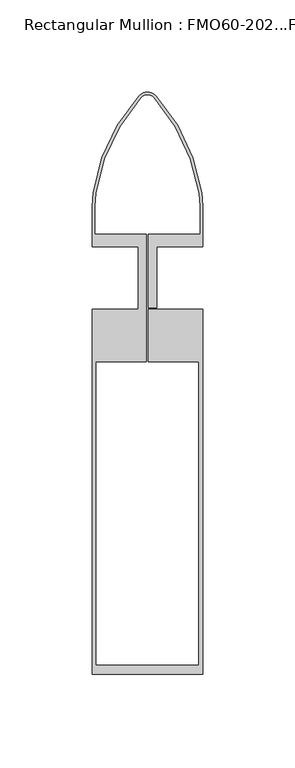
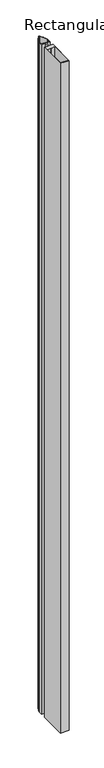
"""IFC4 building model written with IfcOpenShell, lengths in millimetres: member geometry, Rectangular Mullion : FMO60-202...FM60-80."""

from ifc_helpers import new_model, si_unit, frame, origin, place, context, project, spatial, polyline, circle_curve, source, transform, mapped, element, save
from ifc_brep_helpers import plane_surface, cylinder_surface, revolved_surface, advanced_brep


def rectangular_mullion_fmo60_202_fm60_80_f4d952df(model_context):
    return source(origin(), model_context, "Body", "AdvancedBrep", [
        advanced_brep(
        [(28.0754927, 46.0342032, 0.0), (28.6, 38.9133183, 0.0), (28.6000412, 23.8476589, 0.0), (0.5, 23.8476589, 0.0), (0.5, -16.2, 0.0), (5.0, -16.2, 0.0), (5.0, 17.0, 0.0), (30.0, 17.0, 0.0), (30.0, 38.9133183, 0.0), (29.4612692, 46.2333488, 0.0), (4.7233463, 98.6502996, 0.0), (0.0, 100.9502996, 0.0), (-4.7233463, 98.6502996, 0.0), (-29.4612692, 46.2333488, 0.0), (-30.0, 38.9133183, 0.0), (-30.0, 17.0, 0.0), (-5.0, 17.0, 0.0), (-5.0, -17.0, 0.0), (-30.0, -17.0, 0.0), (-30.0, -215.009342, 0.0), (30.0, -215.009342, 0.0), (30.0, -17.0, 0.0), (0.5, -17.0, 0.0), (0.5, -45.5034642, 0.0), (28.0, -45.5034642, 0.0), (28.0, -210.007942, 0.0), (-28.0, -210.007942, 0.0), (-28.0, -45.5034642, 0.0), (-0.5, -45.5034642, 0.0), (-0.5, 23.8476589, 0.0), (-28.6, 23.8476589, 0.0), (-28.6, 38.9133183, 0.0), (-28.0754927, 46.0342032, 0.0), (-3.6212321, 97.7869663, 0.0), (0.0, 99.5502996, 0.0), (3.6212321, 97.7869663, 0.0), (28.0763537, 46.0283879, -5000.0), (3.6212321, 97.7869663, -5000.0), (0.0, 99.5502996, -5000.0), (-3.6212321, 97.7869663, -5000.0), (-28.0763537, 46.0283879, -5000.0), (-28.6, 38.9133183, -5000.0), (-28.6, 23.8476589, -5000.0), (-0.5, 23.8476589, -5000.0), (-0.5, -45.5034642, -5000.0), (-28.0, -45.5034642, -5000.0), (-28.0, -210.007942, -5000.0), (28.0, -210.007942, -5000.0), (28.0, -45.5034642, -5000.0), (0.5, -45.5034642, -5000.0), (0.5, -17.0, -5000.0), (30.0, -17.0, -5000.0), (30.0, -215.009342, -5000.0), (-30.0, -215.009342, -5000.0), (-30.0, -17.0, -5000.0), (-5.0, -17.0, -5000.0), (-5.0, 17.0, -5000.0), (-30.0, 17.0, -5000.0), (-30.0, 38.9133183, -5000.0), (-29.4612692, 46.2333488, -5000.0), (-4.7233463, 98.6502996, -5000.0), (0.0, 100.9502996, -5000.0), (4.7233463, 98.6502996, -5000.0), (29.4612692, 46.2333488, -5000.0), (30.0, 38.9133183, -5000.0), (30.0, 17.0, -5000.0), (5.0, 17.0, -5000.0), (5.0, -16.2, -5000.0), (0.5, -16.2, -5000.0), (0.5, 23.8476589, -5000.0), (28.6000412, 23.8476589, -5000.0), (28.6000412, 38.9133183, -5000.0)],
        [
            (0, 1, circle_curve(frame((-20.0, 38.9133183, 0.0), z_axis=(0.0, 0.0, -1.0), x_axis=(1.0, 0.0, 0.0)), 48.6)),
            (1, 2),
            (2, 3),
            (3, 4),
            (4, 5),
            (5, 6),
            (6, 7),
            (7, 8),
            (8, 9, circle_curve(frame((-20.0, 38.9133183, 0.0), z_axis=(0.0, 0.0, 1.0), x_axis=(0.9892253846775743, 0.14640060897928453, 0.0)), 50.0)),
            (9, 10, circle_curve(frame((-69.4612692, 31.5932879, 0.0), z_axis=(0.0, 0.0, 1.0), x_axis=(0.7418461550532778, 0.6705701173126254, 0.0)), 100.0)),
            (10, 11, circle_curve(frame((0.0, 94.9502996, 0.0), z_axis=(0.0, 0.0, 1.0), x_axis=(-4.1031992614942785e-11, 1.0, 0.0)), 6.0)),
            (11, 12, circle_curve(frame((0.0, 94.9502996, 0.0), z_axis=(0.0, 0.0, 1.0), x_axis=(-0.7872243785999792, 0.6166666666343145, 0.0)), 6.0)),
            (12, 13, circle_curve(frame((69.4612692, 31.5932879, 0.0), z_axis=(0.0, 0.0, 1.0), x_axis=(-0.989225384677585, 0.14640060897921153, 0.0)), 100.0)),
            (13, 14, circle_curve(frame((20.0, 38.9133183, 0.0), z_axis=(0.0, 0.0, 1.0), x_axis=(-1.0, 0.0, 0.0)), 50.0)),
            (14, 15),
            (15, 16),
            (16, 17),
            (17, 18),
            (18, 19),
            (19, 20),
            (20, 21),
            (21, 22),
            (22, 23),
            (23, 24),
            (24, 25),
            (25, 26),
            (26, 27),
            (27, 28),
            (28, 29),
            (29, 30),
            (30, 31),
            (31, 32, circle_curve(frame((20.0, 38.9133183, 0.0), z_axis=(0.0, 0.0, -1.0), x_axis=(-0.989225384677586, 0.14640060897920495, 0.0)), 48.6)),
            (32, 33, circle_curve(frame((69.5008187, 31.5813159, 0.0), z_axis=(0.0, 0.0, -1.0), x_axis=(-0.7412956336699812, 0.6711786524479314, 0.0)), 98.6408763)),
            (33, 34, circle_curve(frame((0.0, 94.9502996, 0.0), z_axis=(0.0, 0.0, -1.0), x_axis=(-5.376158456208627e-11, 1.0, 0.0)), 4.6)),
            (34, 35, circle_curve(frame((0.0, 94.9502996, 0.0), z_axis=(0.0, 0.0, -1.0), x_axis=(0.7872243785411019, 0.6166666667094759, 0.0)), 4.6)),
            (35, 0, circle_curve(frame((-69.5008187, 31.5813159, 0.0), z_axis=(0.0, 0.0, -1.0), x_axis=(0.9892163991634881, 0.14646131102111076, 0.0)), 98.6408763)),
            (36, 37, circle_curve(frame((-69.5008187, 31.5813159, -5000.0), z_axis=(0.0, 0.0, 1.0), x_axis=(0.9892163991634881, 0.14646131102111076, 0.0)), 98.6408763)),
            (37, 38, circle_curve(frame((0.0, 94.9502996, -5000.0), z_axis=(0.0, 0.0, 1.0), x_axis=(0.7872243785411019, 0.6166666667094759, 0.0)), 4.6)),
            (38, 39, circle_curve(frame((0.0, 94.9502996, -5000.0), z_axis=(0.0, 0.0, 1.0), x_axis=(-5.376158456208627e-11, 1.0, 0.0)), 4.6)),
            (39, 40, circle_curve(frame((69.5008187, 31.5813159, -5000.0), z_axis=(0.0, 0.0, 1.0), x_axis=(-0.7412956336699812, 0.6711786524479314, 0.0)), 98.6408763)),
            (40, 41, circle_curve(frame((20.0, 38.9133183, -5000.0), z_axis=(0.0, 0.0, 1.0), x_axis=(-0.989225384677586, 0.14640060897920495, 0.0)), 48.6)),
            (41, 42),
            (42, 43),
            (43, 44),
            (44, 45),
            (45, 46),
            (46, 47),
            (47, 48),
            (48, 49),
            (49, 50),
            (50, 51),
            (51, 52),
            (52, 53),
            (53, 54),
            (54, 55),
            (55, 56),
            (56, 57),
            (57, 58),
            (58, 59, circle_curve(frame((20.0, 38.9133183, -5000.0), z_axis=(0.0, 0.0, -1.0), x_axis=(-1.0, 0.0, 0.0)), 50.0)),
            (59, 60, circle_curve(frame((69.4612692, 31.5932879, -5000.0), z_axis=(0.0, 0.0, -1.0), x_axis=(-0.989225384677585, 0.14640060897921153, 0.0)), 100.0)),
            (60, 61, circle_curve(frame((0.0, 94.9502996, -5000.0), z_axis=(0.0, 0.0, -1.0), x_axis=(-0.7872243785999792, 0.6166666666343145, 0.0)), 6.0)),
            (61, 62, circle_curve(frame((0.0, 94.9502996, -5000.0), z_axis=(0.0, 0.0, -1.0), x_axis=(-4.1031992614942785e-11, 1.0, 0.0)), 6.0)),
            (62, 63, circle_curve(frame((-69.4612692, 31.5932879, -5000.0), z_axis=(0.0, 0.0, -1.0), x_axis=(0.7418461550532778, 0.6705701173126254, 0.0)), 100.0)),
            (63, 64, circle_curve(frame((-20.0, 38.9133183, -5000.0), z_axis=(0.0, 0.0, -1.0), x_axis=(0.9892253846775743, 0.14640060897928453, 0.0)), 50.0)),
            (64, 65),
            (65, 66),
            (66, 67),
            (67, 68),
            (68, 69),
            (69, 70),
            (70, 71),
            (71, 36, circle_curve(frame((-20.0, 38.9133183, -5000.0), z_axis=(0.0, 0.0, 1.0), x_axis=(1.0, 0.0, 0.0)), 48.6)),
            (0, 36),
            (71, 1),
            (70, 2),
            (69, 3),
            (68, 4),
            (67, 5),
            (66, 6),
            (65, 7),
            (64, 8),
            (63, 9),
            (62, 10),
            (61, 11),
            (60, 12),
            (59, 13),
            (58, 14),
            (57, 15),
            (56, 16),
            (55, 17),
            (54, 18),
            (53, 19),
            (52, 20),
            (51, 21),
            (50, 22),
            (49, 23),
            (48, 24),
            (47, 25),
            (46, 26),
            (45, 27),
            (44, 28),
            (43, 29),
            (42, 30),
            (41, 31),
            (40, 32),
            (39, 33),
            (38, 34),
            (37, 35),
        ],
        [
            plane_surface(frame((0.0, -217.0921859, 0.0), z_axis=(0.0, 0.0, 1.0), x_axis=(-1.0, 0.0, 0.0))),
            plane_surface(frame((0.0, -217.0921859, -5000.0), z_axis=(0.0, 0.0, -1.0), x_axis=(-1.0, 0.0, 0.0))),
            revolved_surface(polyline([(28.6, 38.9133183, -5000.0), (28.6, 38.9133183, 0.0)]), (-20.0, 38.9133183, 0.0), (0.0, 0.0, -1.0)),
            plane_surface(frame((28.6000412, 38.9133183, 0.0), z_axis=(-1.0, 0.0, 0.0), x_axis=(0.0, 0.0, -1.0))),
            plane_surface(frame((28.6000412, 23.8476589, 0.0), z_axis=(0.0, 1.0, 0.0), x_axis=(0.0, 0.0, -1.0))),
            plane_surface(frame((0.5, 23.8476589, 0.0), z_axis=(-1.0, 0.0, 0.0), x_axis=(0.0, 0.0, -1.0))),
            plane_surface(frame((0.5, -16.2, 0.0), z_axis=(0.0, -1.0, 0.0), x_axis=(0.0, 0.0, -1.0))),
            plane_surface(frame((5.0, -16.2, 0.0), z_axis=(1.0, 0.0, 0.0), x_axis=(0.0, 0.0, -1.0))),
            plane_surface(frame((5.0, 17.0, 0.0), z_axis=(0.0, -1.0, 0.0), x_axis=(0.0, 0.0, -1.0))),
            plane_surface(frame((30.0, 17.0, 0.0), z_axis=(1.0, 0.0, 0.0), x_axis=(0.0, 0.0, -1.0))),
            cylinder_surface(frame((-20.0, 38.9133183, 0.0), z_axis=(0.0, 0.0, 1.0000000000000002), x_axis=(0.9892253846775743, 0.14640060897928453, 0.0)), 50.0),
            cylinder_surface(frame((-69.4612692, 31.5932879, 0.0), z_axis=(0.0, 0.0, 1.0), x_axis=(0.7418461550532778, 0.6705701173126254, 0.0)), 100.0),
            cylinder_surface(frame((0.0, 94.9502996, 0.0), z_axis=(0.0, 0.0, 1.0), x_axis=(-4.1031992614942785e-11, 1.0, 0.0)), 6.0),
            cylinder_surface(frame((0.0, 94.9502996, 0.0), z_axis=(0.0, 0.0, 1.0), x_axis=(-0.7872243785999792, 0.6166666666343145, 0.0)), 6.0),
            cylinder_surface(frame((69.4612692, 31.5932879, 0.0), z_axis=(0.0, 0.0, 1.0), x_axis=(-0.989225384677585, 0.14640060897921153, 0.0)), 100.0),
            cylinder_surface(frame((20.0, 38.9133183, 0.0), z_axis=(0.0, 0.0, 1.0), x_axis=(-1.0, 0.0, 0.0)), 50.0),
            plane_surface(frame((-30.0, 38.9133183, 0.0), z_axis=(-1.0, 0.0, 0.0), x_axis=(0.0, 0.0, -1.0))),
            plane_surface(frame((-30.0, 17.0, 0.0), z_axis=(0.0, -1.0, 0.0), x_axis=(0.0, 0.0, -1.0))),
            plane_surface(frame((-5.0, 17.0, 0.0), z_axis=(-1.0, 0.0, 0.0), x_axis=(0.0, 0.0, -1.0))),
            plane_surface(frame((-5.0, -17.0, 0.0), z_axis=(0.0, 1.0, 0.0), x_axis=(0.0, 0.0, -1.0))),
            plane_surface(frame((-30.0, -17.0, 0.0), z_axis=(-1.0, 0.0, 0.0), x_axis=(0.0, 0.0, -1.0))),
            plane_surface(frame((-30.0, -215.009342, 0.0), z_axis=(0.0, -1.0, 0.0), x_axis=(0.0, 0.0, -1.0))),
            plane_surface(frame((30.0, -215.009342, 0.0), z_axis=(1.0, 0.0, 0.0), x_axis=(0.0, 0.0, -1.0))),
            plane_surface(frame((30.0, -17.0, 0.0), z_axis=(0.0, 1.0, 0.0), x_axis=(0.0, 0.0, -1.0))),
            plane_surface(frame((0.5, -17.0, 0.0), z_axis=(-1.0, 0.0, 0.0), x_axis=(0.0, 0.0, -1.0))),
            plane_surface(frame((0.5, -45.5034642, 0.0), z_axis=(0.0, -1.0, 0.0), x_axis=(0.0, 0.0, -1.0))),
            plane_surface(frame((28.0, -45.5034642, 0.0), z_axis=(-1.0, 0.0, 0.0), x_axis=(0.0, 0.0, -1.0))),
            plane_surface(frame((28.0, -210.007942, 0.0), z_axis=(0.0, 1.0, 0.0), x_axis=(0.0, 0.0, -1.0))),
            plane_surface(frame((-28.0, -210.007942, 0.0), z_axis=(1.0, 0.0, 0.0), x_axis=(0.0, 0.0, -1.0))),
            plane_surface(frame((-28.0, -45.5034642, 0.0), z_axis=(0.0, -1.0, 0.0), x_axis=(0.0, 0.0, -1.0))),
            plane_surface(frame((-0.5, -45.5034642, 0.0), z_axis=(1.0, 0.0, 0.0), x_axis=(0.0, 0.0, -1.0))),
            plane_surface(frame((-0.5, 23.8476589, 0.0), z_axis=(0.0, 1.0, 0.0), x_axis=(0.0, 0.0, -1.0))),
            plane_surface(frame((-28.6, 23.8476589, 0.0), z_axis=(1.0, 0.0, 0.0), x_axis=(0.0, 0.0, -1.0))),
            revolved_surface(polyline([(-28.07635369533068, 46.02838789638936, -5000.000000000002), (-28.07635369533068, 46.02838789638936, 0.0)]), (20.0, 38.9133183, 0.0), (0.0, 0.0, -1.0000000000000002)),
            revolved_surface(polyline([(-3.621232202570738, 97.7869663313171, -5000.0), (-3.621232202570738, 97.7869663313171, 0.0)]), (69.5008187, 31.5813159, 0.0), (0.0, 0.0, -1.0)),
            revolved_surface(polyline([(-2.473032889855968e-10, 99.55029959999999, -5000.0), (-2.473032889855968e-10, 99.55029959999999, 0.0)]), (0.0, 94.9502996, 0.0), (0.0, 0.0, -1.0)),
            revolved_surface(polyline([(3.6212321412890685, 97.78696626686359, -5000.0), (3.6212321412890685, 97.78696626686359, 0.0)]), (0.0, 94.9502996, 0.0), (0.0, 0.0, -1.0)),
            revolved_surface(polyline([(28.076353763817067, 46.028387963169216, -5000.0), (28.076353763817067, 46.028387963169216, 0.0)]), (-69.5008187, 31.5813159, 0.0), (0.0, 0.0, -1.0)),
        ],
        [
            (0, [[1, 2, 3, 4, 5, 6, 7, 8, 9, 10, 11, 12, 13, 14, 15, 16, 17, 18, 19, 20, 21, 22, 23, 24, 25, 26, 27, 28, 29, 30, 31, 32, 33, 34, 35, 36]]),
            (1, [[37, 38, 39, 40, 41, 42, 43, 44, 45, 46, 47, 48, 49, 50, 51, 52, 53, 54, 55, 56, 57, 58, 59, 60, 61, 62, 63, 64, 65, 66, 67, 68, 69, 70, 71, 72]]),
            (2, [[-1, 73, -72, 74]]),
            (3, [[-2, -74, -71, 75]]),
            (4, [[-3, -75, -70, 76]]),
            (5, [[-4, -76, -69, 77]]),
            (6, [[-5, -77, -68, 78]]),
            (7, [[-6, -78, -67, 79]]),
            (8, [[-7, -79, -66, 80]]),
            (9, [[-8, -80, -65, 81]]),
            (10, [[-9, -81, -64, 82]]),
            (11, [[-10, -82, -63, 83]]),
            (12, [[-11, -83, -62, 84]]),
            (13, [[-12, -84, -61, 85]]),
            (14, [[-13, -85, -60, 86]]),
            (15, [[-14, -86, -59, 87]]),
            (16, [[-15, -87, -58, 88]]),
            (17, [[-16, -88, -57, 89]]),
            (18, [[-17, -89, -56, 90]]),
            (19, [[-18, -90, -55, 91]]),
            (20, [[-19, -91, -54, 92]]),
            (21, [[-20, -92, -53, 93]]),
            (22, [[-21, -93, -52, 94]]),
            (23, [[-22, -94, -51, 95]]),
            (24, [[-23, -95, -50, 96]]),
            (25, [[-24, -96, -49, 97]]),
            (26, [[-25, -97, -48, 98]]),
            (27, [[-26, -98, -47, 99]]),
            (28, [[-27, -99, -46, 100]]),
            (29, [[-28, -100, -45, 101]]),
            (30, [[-29, -101, -44, 102]]),
            (31, [[-30, -102, -43, 103]]),
            (32, [[-31, -103, -42, 104]]),
            (33, [[-32, -104, -41, 105]]),
            (34, [[-33, -105, -40, 106]]),
            (35, [[-34, -106, -39, 107]]),
            (36, [[-35, -107, -38, 108]]),
            (37, [[-36, -108, -37, -73]]),
        ],
    ),
    ])


if __name__ == "__main__":
    model = new_model("IFC4")
    model_context = context("Model", 3, world=origin())
    ifc_project = project(units=[si_unit("LENGTHUNIT", "METRE", prefix="MILLI")], contexts=[model_context])
    site = spatial("IfcSite", under=ifc_project)
    building = spatial("IfcBuilding", under=site)
    placement = place(None, origin())
    rectangular_mullion_fmo60_202_fm60_80_shape = rectangular_mullion_fmo60_202_fm60_80_f4d952df(model_context)
    element("IfcMember", 1, ObjectType="Rectangular Mullion : FMO60-202...FM60-80", at=placement, inside=building, context=model_context, shape_type="MappedRepresentation", body=[
        mapped(rectangular_mullion_fmo60_202_fm60_80_shape, transform((0.0, 0.0, 0.0), x_axis=(1.0, 0.0, 0.0), y_axis=(0.0, 1.0, 0.0), z_axis=(0.0, 0.0, 1.0))),
    ])
    save(model, "model.ifc")
